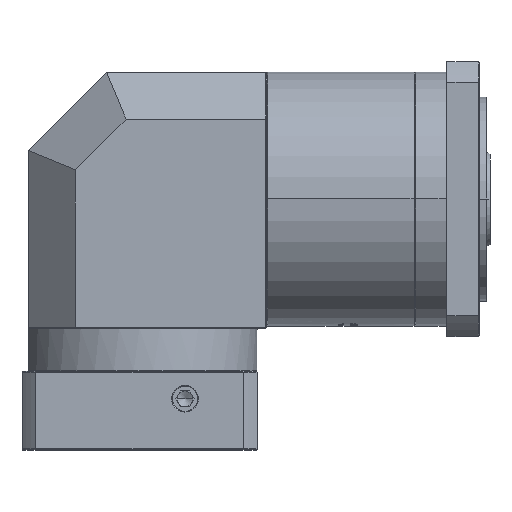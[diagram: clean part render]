
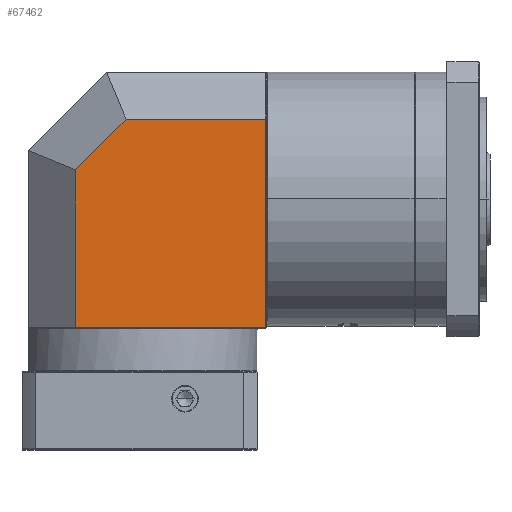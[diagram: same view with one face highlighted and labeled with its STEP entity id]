
A CAD part, top view. The second image highlights one B-rep face of the part: STEP entity #67462.
In plain terms, the highlighted planar face has unit normal (0, 0, 1).
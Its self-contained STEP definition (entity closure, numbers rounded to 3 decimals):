
#2691 = LINE ( 'NONE', #25527, #22172 ) ;
#8154 = LINE ( 'NONE', #17297, #125319 ) ;
#9200 = LINE ( 'NONE', #90636, #131800 ) ;
#12578 = AXIS2_PLACEMENT_3D ( 'NONE', #99001, #20122, #121411 ) ;
#13512 = CARTESIAN_POINT ( 'NONE',  ( -2.741, -17.756, 323.25 ) ) ;
#17297 = CARTESIAN_POINT ( 'NONE',  ( -35.167, -69.506, 323.25 ) ) ;
#20122 = DIRECTION ( 'NONE',  ( 0., 0., 1. ) ) ;
#22172 = VECTOR ( 'NONE', #48889, 1000. ) ;
#25527 = CARTESIAN_POINT ( 'NONE',  ( 10.933, -150.756, 323.25 ) ) ;
#32198 = DIRECTION ( 'NONE',  ( 0., -1., 0. ) ) ;
#32613 = LINE ( 'NONE', #96405, #99981 ) ;
#33034 = VERTEX_POINT ( 'NONE', #63132 ) ;
#35473 = ORIENTED_EDGE ( 'NONE', *, *, #54412, .F. ) ;
#42401 = VERTEX_POINT ( 'NONE', #128392 ) ;
#43522 = PLANE ( 'NONE',  #12578 ) ;
#48368 = VECTOR ( 'NONE', #32198, 1000. ) ;
#48889 = DIRECTION ( 'NONE',  ( 1., 0., 0. ) ) ;
#53462 = DIRECTION ( 'NONE',  ( 0., -1., 0. ) ) ;
#54412 = EDGE_CURVE ( 'NONE', #66642, #42401, #9200, .T. ) ;
#55849 = VERTEX_POINT ( 'NONE', #108644 ) ;
#56552 = EDGE_CURVE ( 'NONE', #33034, #55849, #8154, .T. ) ;
#56779 = EDGE_CURVE ( 'NONE', #42401, #94450, #98026, .T. ) ;
#63132 = CARTESIAN_POINT ( 'NONE',  ( -35.167, -50.182, 323.25 ) ) ;
#66642 = VERTEX_POINT ( 'NONE', #13512 ) ;
#67462 = ADVANCED_FACE ( 'NONE', ( #74470 ), #43522, .T. ) ;
#74470 = FACE_OUTER_BOUND ( 'NONE', #133504, .T. ) ;
#77601 = ORIENTED_EDGE ( 'NONE', *, *, #56779, .F. ) ;
#77810 = DIRECTION ( 'NONE',  ( 1., 0., 0. ) ) ;
#86142 = EDGE_CURVE ( 'NONE', #66642, #33034, #32613, .T. ) ;
#90636 = CARTESIAN_POINT ( 'NONE',  ( 10.933, -17.756, 323.25 ) ) ;
#94450 = VERTEX_POINT ( 'NONE', #118405 ) ;
#96405 = CARTESIAN_POINT ( 'NONE',  ( -2.741, -17.756, 323.25 ) ) ;
#98026 = LINE ( 'NONE', #145823, #48368 ) ;
#99001 = CARTESIAN_POINT ( 'NONE',  ( 10.933, -69.506, 323.25 ) ) ;
#99981 = VECTOR ( 'NONE', #108860, 1000. ) ;
#108644 = CARTESIAN_POINT ( 'NONE',  ( -35.167, -150.756, 323.25 ) ) ;
#108860 = DIRECTION ( 'NONE',  ( -0.707, -0.707, 0. ) ) ;
#118405 = CARTESIAN_POINT ( 'NONE',  ( 86.533, -150.756, 323.25 ) ) ;
#121411 = DIRECTION ( 'NONE',  ( 1., 0., 0. ) ) ;
#121480 = EDGE_CURVE ( 'NONE', #55849, #94450, #2691, .T. ) ;
#125319 = VECTOR ( 'NONE', #53462, 1000. ) ;
#128392 = CARTESIAN_POINT ( 'NONE',  ( 86.533, -17.756, 323.25 ) ) ;
#130426 = ORIENTED_EDGE ( 'NONE', *, *, #56552, .T. ) ;
#131800 = VECTOR ( 'NONE', #77810, 1000. ) ;
#133504 = EDGE_LOOP ( 'NONE', ( #133642, #77601, #35473, #144452, #130426 ) ) ;
#133642 = ORIENTED_EDGE ( 'NONE', *, *, #121480, .T. ) ;
#144452 = ORIENTED_EDGE ( 'NONE', *, *, #86142, .T. ) ;
#145823 = CARTESIAN_POINT ( 'NONE',  ( 86.533, -69.506, 323.25 ) ) ;
